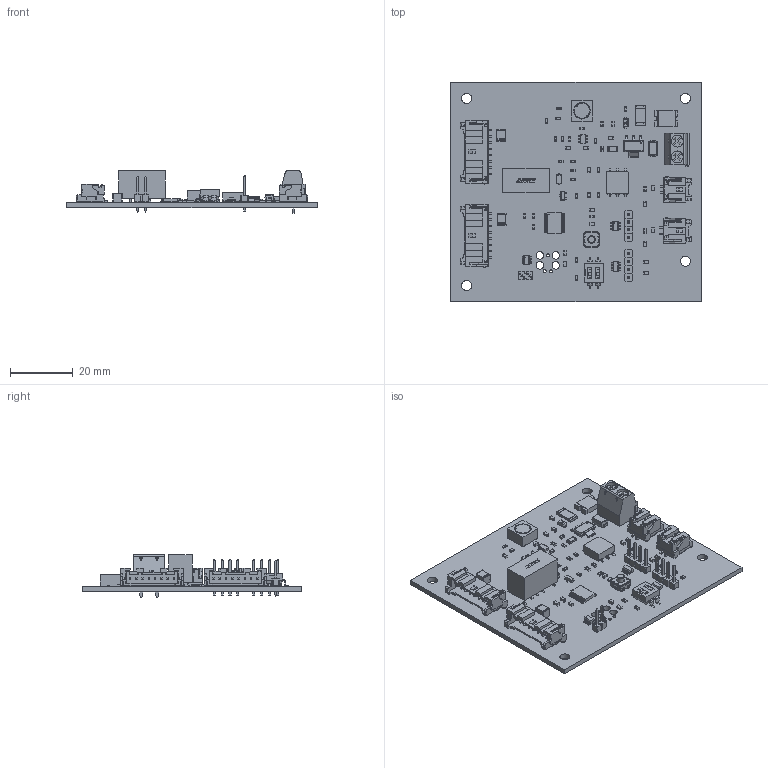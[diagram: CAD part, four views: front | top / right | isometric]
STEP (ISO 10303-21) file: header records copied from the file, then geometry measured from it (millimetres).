
FILE_DESCRIPTION(('KiCad electronic assembly'),'2;1');
FILE_NAME('.step','2026-08-02T20:10:30',('Pcbnew'),('Kicad'), 'Open CASCADE STEP processor 7.9','KiCad to STEP converter','Unknown' );
FILE_SCHEMA(('AUTOMOTIVE_DESIGN { 1 0 10303 214 1 1 1 1 }'));
Length unit declared in the file: millimetre
Products named in the file (74): .step 1; 61300411121; User Library-Header_Male_4Pin; PinArray; BodyArray; R_0603; AC0603FR-1047KL; C_0603; KEMET_X7R_C0603CCJ; 2-DFN_(1.6x1); SP1103C-01UTG; L_44.88mm3_6.8x6.8mm_Bourns_SRR6038-120Y; SRR6038; R_2512; CRA2512-FZ-R001ELF; C_1210_TDK_CGA6_2.8mm_Tall; part; SOT-23-6 [2.8x2.93x1.1,P=0.95]mm; M7; 025002-01643-a.testprt; SM08B-PASS-TBT; SOD-123F; SOD123F step; SOD123F Lead; SOD123F lower body; SOD123F upper body; TSSOP-20 [6.4x4.4x1.2,P=0.65]mm; 77311-118-02LF; 77311-118-02LF.step; 98471_002.step; 77310_Y16.step; 0ZCF0100AF2A; SOT-223-4; ASSEMBLY; Body; PinsArrayL; FilletPinR; SOT-23-3; SMD-MOSFET-P-CH-60V-900MA_SOT-23_.step; SM02B-PASS-TBT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
Assembly tree (118 placements, depth 5):
  .step 1
    61300411121  x2
      User Library-Header_Male_4Pin
        PinArray
        BodyArray
    R_0603  x21
      AC0603FR-1047KL
    C_0603  x13
      KEMET_X7R_C0603CCJ
    2-DFN_(1.6x1)  x4
      SP1103C-01UTG
    L_44.88mm3_6.8x6.8mm_Bourns_SRR6038-120Y
      SRR6038
    R_2512
      CRA2512-FZ-R001ELF
    C_1210_TDK_CGA6_2.8mm_Tall  x2
      part
    SOT-23-6 [2.8x2.93x1.1,P=0.95]mm  x3
      part
    M7
      025002-01643-a.testprt
    SM08B-PASS-TBT  x2
      SM08B-PASS-TBT
    SOD-123F
      SOD123F step
        SOD123F Lead
        SOD123F lower body
        SOD123F upper body
    TSSOP-20 [6.4x4.4x1.2,P=0.65]mm
      part
    77311-118-02LF
      77311-118-02LF
        77311-118-02LF.step
          98471_002.step
          77310_Y16.step  x2
    0ZCF0100AF2A
      0ZCF0100AF2A
    SOT-223-4
      ASSEMBLY
        Body
        PinsArrayL
        FilletPinR
    SOT-23-3
      SOT-23-3
        SMD-MOSFET-P-CH-60V-900MA_SOT-23_.step
    SM02B-PASS-TBT  x2
      SM02B-PASS-TBT(LF)(SN)
    5442206
      BC-508X10-2_GN
        BC-508X10-2_GN
    EE2-3NUH
      IR_TEE2MFS_L15W7.5H10
    B5819W
      Document
        ��1
        ��2
    R_1206
      User Library-Resistor_1206
        Resistor_1206.STEP
          Pin1Body.STEP
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Bounding box: 80 x 70 x 13.55 mm (x, y, z)
Volume: 12784.6 mm3; surface area: 19280.6 mm2
Topology: 348 solids, 348 shells, 5583 faces, 13671 edges, 8660 vertices
Faces by surface type: plane 4373, cylinder 1016, sphere 150, bspline 20, cone 14, torus 10
Full cylindrical faces by diameter (mm): 0.088 x3, 0.224 x1, 0.438 x1, 0.889 x4, 0.991 x3, 1.1 x2, 1.15 x8, 1.3 x2, 2.388 x4, 3.2 x4
Entity records: 98096 total; most frequent: CARTESIAN_POINT 16325, ORIENTED_EDGE 14486, DIRECTION 14113, EDGE_CURVE 7243, LINE 5879, VECTOR 5879, VERTEX_POINT 4678, AXIS2_PLACEMENT_3D 4117
